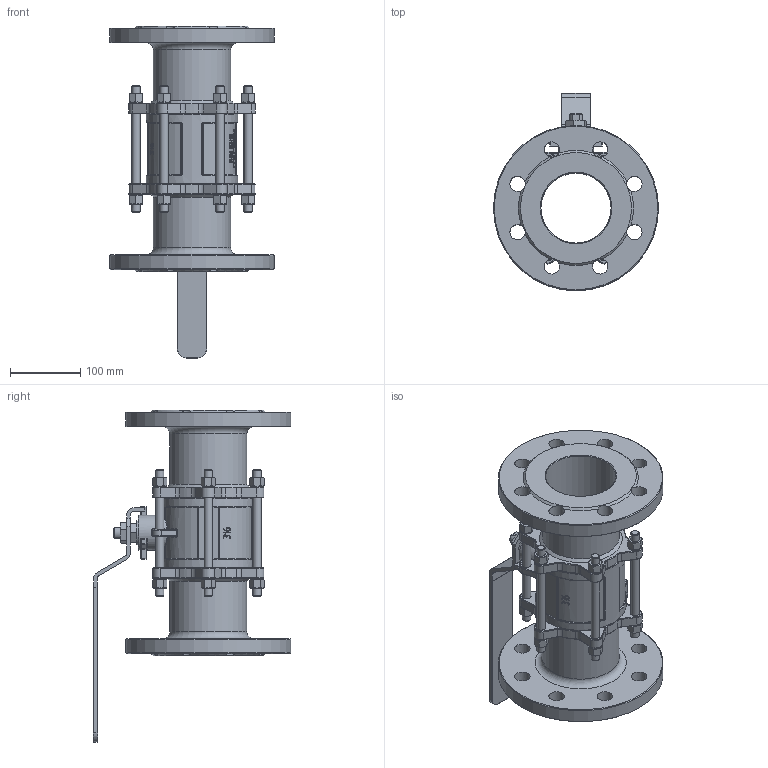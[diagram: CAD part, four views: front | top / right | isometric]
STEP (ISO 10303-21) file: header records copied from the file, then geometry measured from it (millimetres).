
FILE_DESCRIPTION(('STEP AP214'), '1');
FILE_NAME('BV3232P(3pc)-FP-F-H - Êðàí øàðîâîé DN.ru Äó100 Ðó16', '', ('UNSPECIFIED'), ('UNSPECIFIED'), 'C3D Converter', 'C3D Toolkit', '');
FILE_SCHEMA(('AUTOMOTIVE_DESIGN { 1 0 10303 214 3 1 1}'));
Length unit declared in the file: millimetre
Products named in the file (1): BV3232P(3pc)-FP-F-H
Bounding box: 235 x 281.5 x 473 mm (x, y, z)
Surface area: 525501.2 mm2
Topology: 2 solids, 3 shells, 1722 faces, 4353 edges, 2681 vertices
Faces by surface type: plane 518, extrusion 416, cylinder 335, cone 213, torus 151, bspline 57, sphere 32
Full cylindrical faces by diameter (mm): 12 x18, 13 x14, 18 x12, 22 x16, 34.454 x1, 50 x1, 100 x1, 110 x2, 130 x1, 235 x2
Entity records: 93569 total; most frequent: CARTESIAN_POINT 50125, ORIENTED_EDGE 8482, DIRECTION 6946, EDGE_CURVE 4253, VERTEX_POINT 2689, AXIS2_PLACEMENT_3D 2515, EDGE_LOOP 1942, VECTOR 1916
